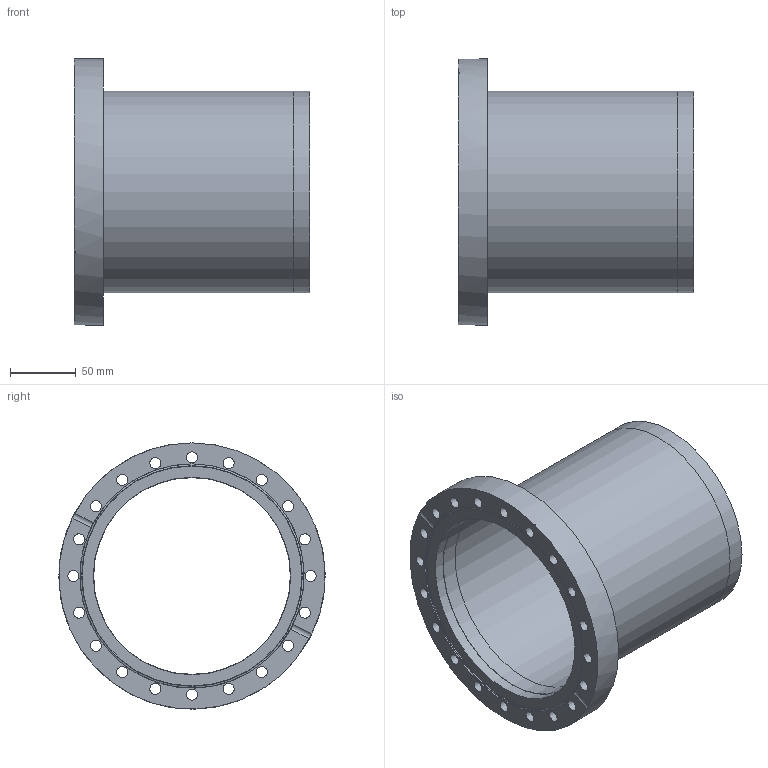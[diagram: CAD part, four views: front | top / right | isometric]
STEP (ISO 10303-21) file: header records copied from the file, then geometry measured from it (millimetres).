
FILE_DESCRIPTION( ( 'Unknown' ), '1' );
FILE_NAME( 'X:/Daten ( aktueller Bestand )/Projekte und Zeichnungen/Solid Edge/15 CF Bauteile/CF-Flansch mit Rohransatz, fest/7575F.stp', 'Unknown', ( 'Unknown' ), ( 'Unknown' ), 'XStep 1.0', 'Unknown', ' ' );
FILE_SCHEMA( ( 'automotive_design' ) );
Length unit declared in the file: millimetre
Products named in the file (3): Assem1; 7515F; 7575F-1
Bounding box: 179.8 x 203 x 203 mm (x, y, z)
Volume: 864292 mm3; surface area: 432459.7 mm2
Topology: 4 solids, 4 shells, 74 faces, 228 edges, 164 vertices
Faces by surface type: cylinder 56, plane 14, cone 4
Full cylindrical faces by diameter (mm): 8.4 x40, 150 x2, 150.5 x2, 154 x2, 154.5 x2, 171 x2, 203 x2
Entity records: 1222 total; most frequent: CARTESIAN_POINT 232, DIRECTION 196, ORIENTED_EDGE 128, EDGE_LOOP 110, AXIS2_PLACEMENT_3D 96, EDGE_CURVE 64, FACE_OUTER_BOUND 63, VERTEX_POINT 60
